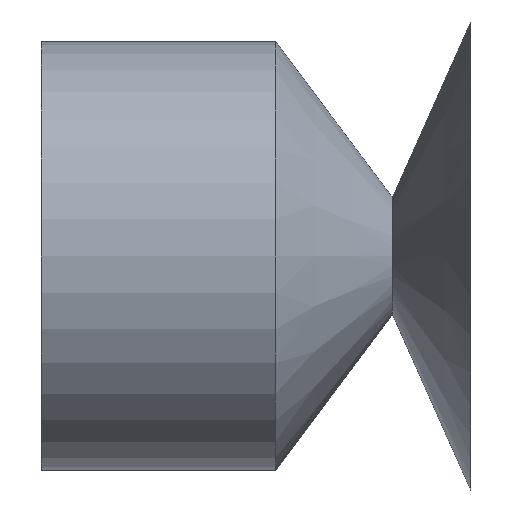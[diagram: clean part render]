
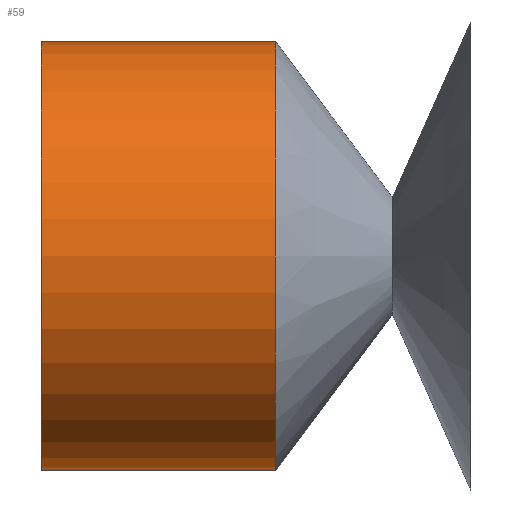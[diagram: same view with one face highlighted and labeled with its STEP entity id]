
A CAD part, left-side view. The second image highlights one B-rep face of the part: STEP entity #59.
In plain terms, the highlighted cylindrical face has radius 5.5 mm (diameter 11 mm), a partial arc.
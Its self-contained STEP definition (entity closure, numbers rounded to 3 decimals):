
#13 = CARTESIAN_POINT ( 'NONE',  ( 0., 0., 0. ) ) ;
#35 = AXIS2_PLACEMENT_3D ( 'NONE', #13, #363, #420 ) ;
#43 = VERTEX_POINT ( 'NONE', #99 ) ;
#52 = CARTESIAN_POINT ( 'NONE',  ( 0., 5., -5.5 ) ) ;
#59 = ADVANCED_FACE ( 'NONE', ( #513 ), #77, .T. ) ;
#60 = CARTESIAN_POINT ( 'NONE',  ( 0., 0., -5.5 ) ) ;
#75 = EDGE_CURVE ( 'NONE', #423, #43, #479, .T. ) ;
#77 = CYLINDRICAL_SURFACE ( 'NONE', #35, 5.5 ) ;
#79 = LINE ( 'NONE', #60, #397 ) ;
#83 = AXIS2_PLACEMENT_3D ( 'NONE', #338, #101, #377 ) ;
#84 = EDGE_CURVE ( 'NONE', #423, #151, #486, .T. ) ;
#88 = VECTOR ( 'NONE', #252, 1000. ) ;
#95 = DIRECTION ( 'NONE',  ( 0., -1., 0. ) ) ;
#99 = CARTESIAN_POINT ( 'NONE',  ( 0., 11., -5.5 ) ) ;
#101 = DIRECTION ( 'NONE',  ( 0., -1., 0. ) ) ;
#107 = VERTEX_POINT ( 'NONE', #52 ) ;
#116 = ORIENTED_EDGE ( 'NONE', *, *, #243, .T. ) ;
#150 = ORIENTED_EDGE ( 'NONE', *, *, #75, .T. ) ;
#151 = VERTEX_POINT ( 'NONE', #208 ) ;
#208 = CARTESIAN_POINT ( 'NONE',  ( 0., 5., 5.5 ) ) ;
#243 = EDGE_CURVE ( 'NONE', #43, #107, #79, .T. ) ;
#244 = ORIENTED_EDGE ( 'NONE', *, *, #249, .F. ) ;
#249 = EDGE_CURVE ( 'NONE', #151, #107, #488, .T. ) ;
#252 = DIRECTION ( 'NONE',  ( 0., -1., 0. ) ) ;
#280 = ORIENTED_EDGE ( 'NONE', *, *, #84, .F. ) ;
#289 = DIRECTION ( 'NONE',  ( 0., 0., -1. ) ) ;
#296 = CARTESIAN_POINT ( 'NONE',  ( 0., 11., 0. ) ) ;
#313 = CARTESIAN_POINT ( 'NONE',  ( 0., 11., 5.5 ) ) ;
#336 = DIRECTION ( 'NONE',  ( 0., -1., 0. ) ) ;
#338 = CARTESIAN_POINT ( 'NONE',  ( 0., 5., 0. ) ) ;
#339 = EDGE_LOOP ( 'NONE', ( #280, #150, #116, #244 ) ) ;
#363 = DIRECTION ( 'NONE',  ( 0., -1., 0. ) ) ;
#377 = DIRECTION ( 'NONE',  ( 0., 0., -1. ) ) ;
#397 = VECTOR ( 'NONE', #336, 1000. ) ;
#420 = DIRECTION ( 'NONE',  ( 0., 0., -1. ) ) ;
#423 = VERTEX_POINT ( 'NONE', #313 ) ;
#456 = CARTESIAN_POINT ( 'NONE',  ( 0., 0., 5.5 ) ) ;
#473 = AXIS2_PLACEMENT_3D ( 'NONE', #296, #95, #289 ) ;
#479 = CIRCLE ( 'NONE', #473, 5.5 ) ;
#486 = LINE ( 'NONE', #456, #88 ) ;
#488 = CIRCLE ( 'NONE', #83, 5.5 ) ;
#513 = FACE_OUTER_BOUND ( 'NONE', #339, .T. ) ;
